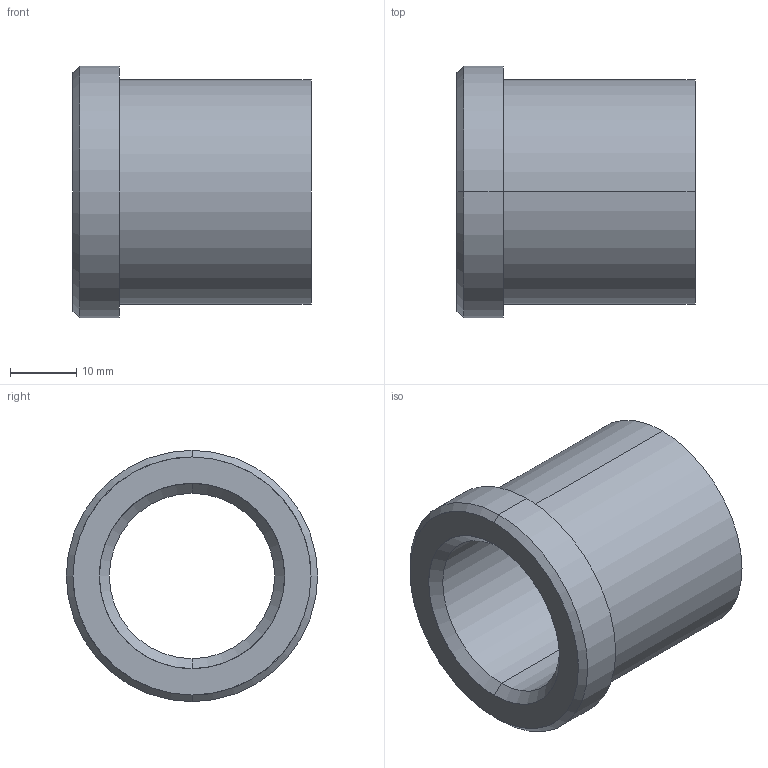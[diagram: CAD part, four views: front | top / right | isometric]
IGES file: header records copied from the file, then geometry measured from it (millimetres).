
Start section: START RECORD GO HERE.
Global section: file name: 353-25X36.igs; native system: DASSAULT SYSTEMES CATIA V5 R20 - www.3ds.com; preprocessor: CATIA Version 5 Release 20 ; author: Utente; organization: NB04-ASUS; date: 20210512.204702; units: millimetre
Bounding box: 36 x 38 x 38 mm (x, y, z)
Surface area: 7844.2 mm2 (no closed solid volume)
Topology: 0 solids, 0 shells, 15 faces, 96 edges, 96 vertices
Faces by surface type: revolution 12, plane 3
